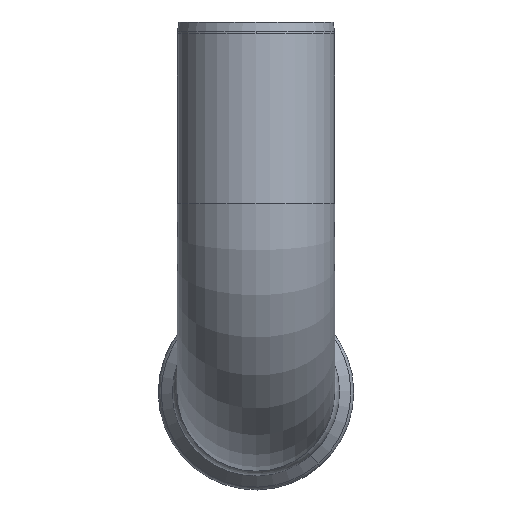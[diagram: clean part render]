
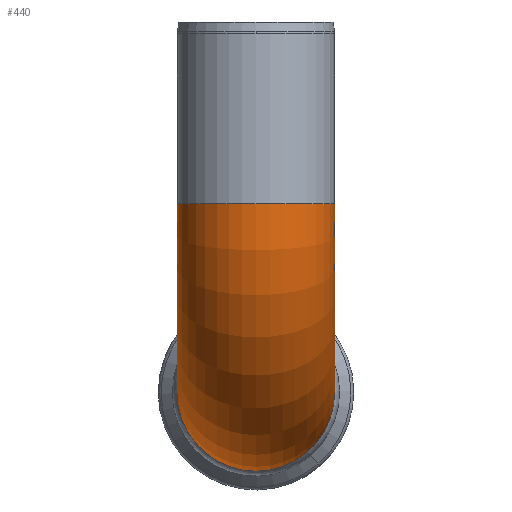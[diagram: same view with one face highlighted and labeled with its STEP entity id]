
A CAD part, left-side view. The second image highlights one B-rep face of the part: STEP entity #440.
In plain terms, the highlighted toroidal (fillet/blend) face has major radius 80 mm and minor radius 33.35 mm.
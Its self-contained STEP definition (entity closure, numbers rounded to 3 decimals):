
#10=CARTESIAN_POINT('',(0.033,0.,80.));
#20=DIRECTION('',(0.,1.,0.));
#30=DIRECTION('',(0.,0.,-1.));
#40=AXIS2_PLACEMENT_3D('',#10,#20,#30);
#50=TOROIDAL_SURFACE('',#40,80.,33.35);
#60=CARTESIAN_POINT('',(0.033,-33.35,80.));
#70=DIRECTION('',(0.,1.,0.));
#80=DIRECTION('',(0.,0.,-1.));
#90=AXIS2_PLACEMENT_3D('',#60,#70,#80);
#100=CIRCLE('',#90,80.);
#110=CARTESIAN_POINT('',(0.033,-33.35,0.
));
#120=VERTEX_POINT('',#110);
#130=CARTESIAN_POINT('',(-79.967,-33.35,80.));
#140=VERTEX_POINT('',#130);
#150=EDGE_CURVE('',#120,#140,#100,.T.);
#160=ORIENTED_EDGE('',*,*,#150,.T.);
#170=CARTESIAN_POINT('',(0.033,0.,0.));
#180=DIRECTION('',(-1.,0.,0.));
#190=DIRECTION('',(0.,1.,0.));
#200=AXIS2_PLACEMENT_3D('',#170,#180,#190);
#210=CIRCLE('',#200,33.35);
#220=CARTESIAN_POINT('',(0.033,33.35,0.));
#230=VERTEX_POINT('',#220);
#240=EDGE_CURVE('',#230,#120,#210,.T.);
#250=ORIENTED_EDGE('',*,*,#240,.T.);
#260=CARTESIAN_POINT('',(0.033,33.35,80.));
#270=DIRECTION('',(0.,1.,0.));
#280=DIRECTION('',(0.,0.,-1.));
#290=AXIS2_PLACEMENT_3D('',#260,#270,#280);
#300=CIRCLE('',#290,80.);
#310=CARTESIAN_POINT('',(-79.967,33.35,80.));
#320=VERTEX_POINT('',#310);
#330=EDGE_CURVE('',#230,#320,#300,.T.);
#340=ORIENTED_EDGE('',*,*,#330,.F.);
#350=CARTESIAN_POINT('',(-79.967,0.,80.));
#360=DIRECTION('',(0.,0.,1.));
#370=DIRECTION('',(0.,1.,0.));
#380=AXIS2_PLACEMENT_3D('',#350,#360,#370);
#390=CIRCLE('',#380,33.35);
#400=EDGE_CURVE('',#320,#140,#390,.T.);
#410=ORIENTED_EDGE('',*,*,#400,.F.);
#420=EDGE_LOOP('',(#410,#340,#250,#160));
#430=FACE_OUTER_BOUND('',#420,.T.);
#440=ADVANCED_FACE('',(#430),#50,.T.);
